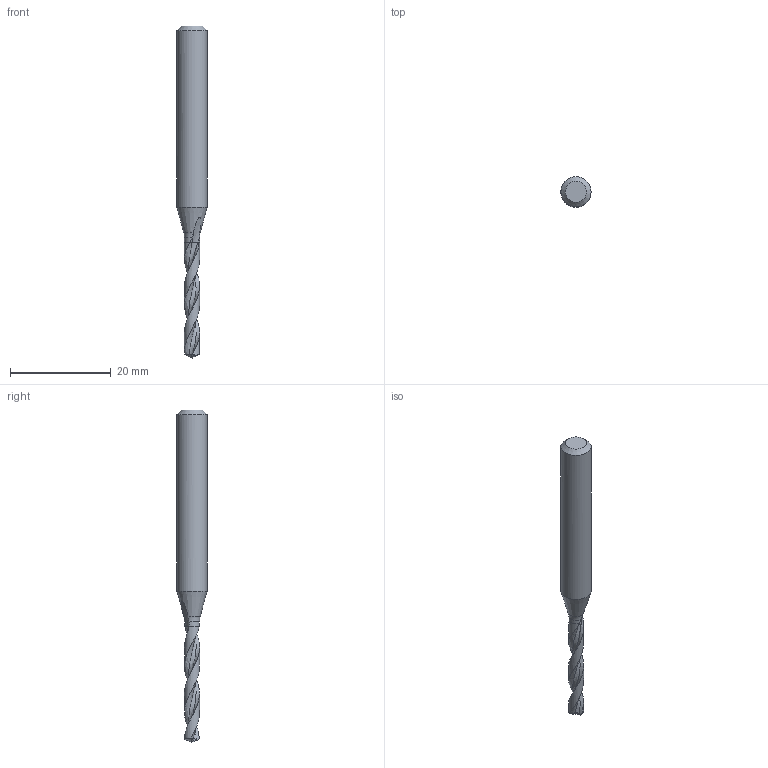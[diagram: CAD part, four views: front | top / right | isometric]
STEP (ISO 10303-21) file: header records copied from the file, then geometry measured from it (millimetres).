
FILE_DESCRIPTION(/* description */ (''),/* implementation_level */ '2;1');
FILE_NAME(/* name */ '60679902_cgr_000~02_214.stp',/* time_stamp */ '2022-02-03T08:46:22-05:00',/* author */ (''),/* organization */ (''),/* preprocessor_version */ 'ST-DEVELOPER v16.7',/* originating_system */ 'SIEMENS PLM Software NX 12.0',/* authorisation */ '');
FILE_SCHEMA (('AUTOMOTIVE_DESIGN { 1 0 10303 214 3 1 1 1 }'));
Length unit declared in the file: millimetre
Products named in the file (1): 60679902_cgr_000~02
Bounding box: 6 x 6 x 66 mm (x, y, z)
Volume: 1199.4 mm3; surface area: 1019.5 mm2
Topology: 2 solids, 2 shells, 34 faces, 105 edges, 84 vertices
Faces by surface type: bspline 14, plane 7, cylinder 7, cone 4, torus 2
Full cylindrical faces by diameter (mm): 6 x1
Entity records: 3194 total; most frequent: CARTESIAN_POINT 2381, ORIENTED_EDGE 192, EDGE_CURVE 96, DIRECTION 85, VERTEX_POINT 69, B_SPLINE_CURVE_WITH_KNOTS 64, AXIS2_PLACEMENT_3D 38, EDGE_LOOP 37
